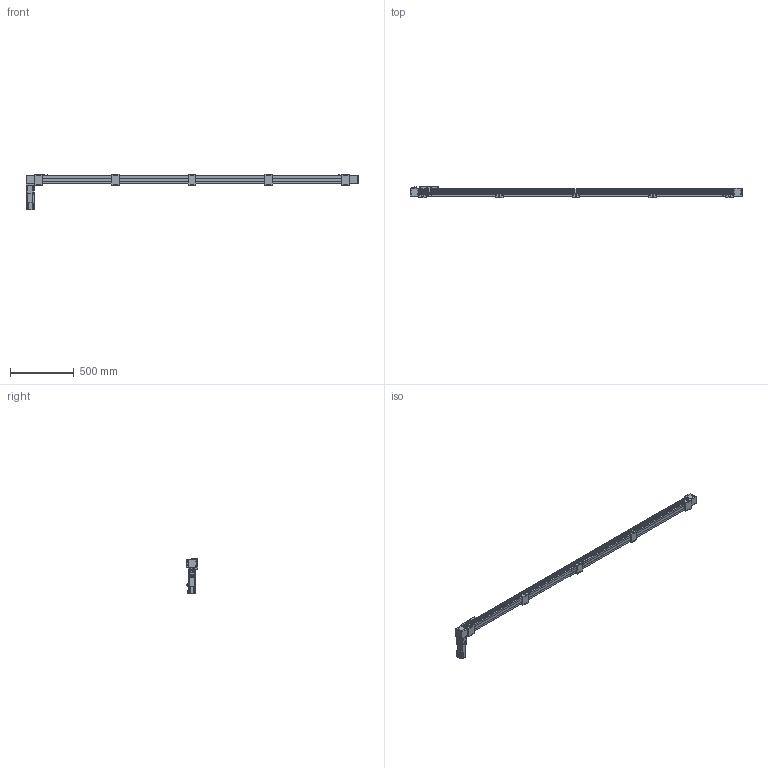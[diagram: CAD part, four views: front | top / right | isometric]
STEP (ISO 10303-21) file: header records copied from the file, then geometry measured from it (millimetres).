
FILE_DESCRIPTION(/* description */ ('STEP AP203'),/* implementation_level */ '2;1');
FILE_NAME(/* name */ 'SK60-P13-S2300-BR-T40-C1-N(0)',/* time_stamp */ '2023-04-06T04:00:51+02:00',/* author */ ('License CC BY-ND 4.0'),/* organization */ ('CADENAS'),/* preprocessor_version */ 'ST-DEVELOPER v19.3',/* originating_system */ 'PARTsolutions',/* authorisation */ ' ');
FILE_SCHEMA (('CONFIG_CONTROL_DESIGN'));
Length unit declared in the file: millimetre
Products named in the file (11): SK60-P13-S2300-BR-T40-C1-N(0); PSC140-sensor; SK60-S450_seat; SK60-S450-BL-C1_slider; SK60_body3; SK60_body6; SK60-BL_body2; T40-p1; SK60_body5; SK60_body4; SK60-S2300-BR-C1_body
Assembly tree (20 placements, depth 2):
  SK60-P13-S2300-BR-T40-C1-N(0)
    PSC140-sensor  x3
    SK60-S450_seat  x5
    SK60-S450-BL-C1_slider
    SK60_body3  x3
    SK60_body6  x2
    SK60-BL_body2  x2
    T40-p1
    SK60_body5
    SK60_body4
    SK60-S2300-BR-C1_body
Bounding box: 2600 x 90 x 279.1 mm (x, y, z)
Volume: 9432542.4 mm3; surface area: 1160275.8 mm2
Topology: 20 solids, 24 shells, 966 faces, 2403 edges, 1586 vertices
Faces by surface type: plane 616, cylinder 314, cone 34, torus 2
Full cylindrical faces by diameter (mm): 2.8 x3, 3.3 x4, 4.2 x8, 4.5 x26, 4.6 x3, 4.917 x28, 5 x2, 5.478 x4, 5.5 x31, 6.5 x10, 8 x4, 8.5 x4, 9.988 x4, 10 x20, 13.556 x1, 14 x1, 14.586 x1, 19.692 x1, 38.432 x2, 43 x1, 44 x3, 47 x2, 50 x2
Entity records: 19395 total; most frequent: DIRECTION 3298, CARTESIAN_POINT 3292, ORIENTED_EDGE 3050, EDGE_CURVE 1525, AXIS2_PLACEMENT_3D 1103, LINE 1092, VECTOR 1092, VERTEX_POINT 1077
